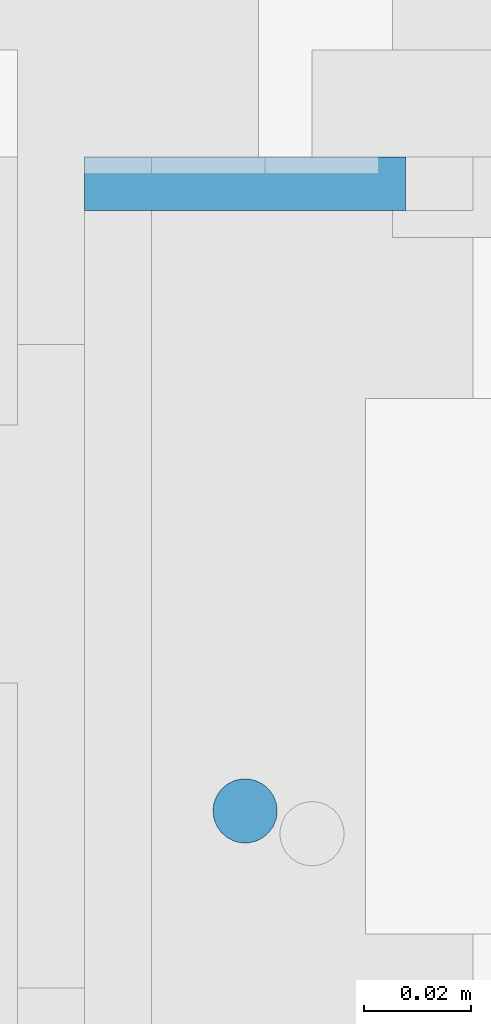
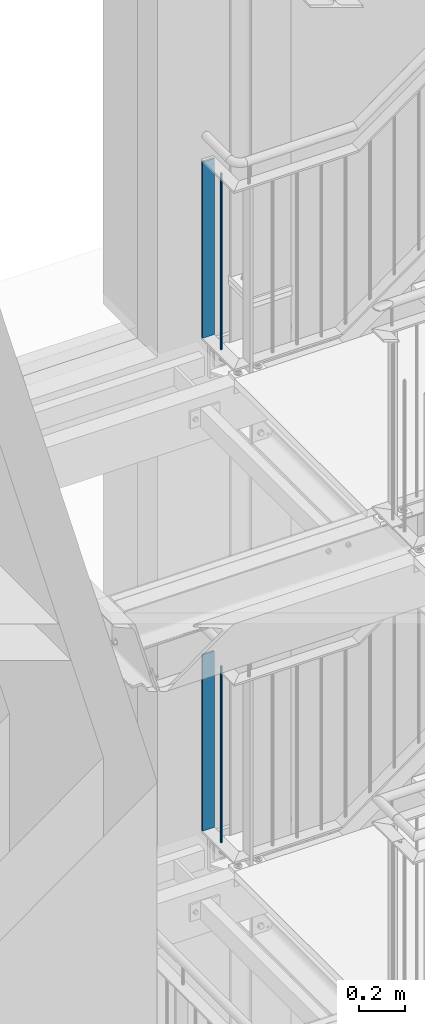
# One storey, part 65 of 821: 4 columns.
"""IFC2X3 building model written with IfcOpenShell, lengths in millimetres."""

from ifc_helpers import new_model, entity, si_unit, converted_unit, frame, origin, origin_with_axes, origin_2d, place, context, project, spatial, rectangle, circle, extrude, clip, halfspace, material, element, save


model = new_model("IFC2X3")

# Units and contexts
model_context = context("Model", 3, precision=1e-09, world=origin_with_axes())
ifc_project = project(units=[si_unit("LENGTHUNIT", "METRE", prefix="MILLI"), si_unit("AREAUNIT", "SQUARE_METRE"), si_unit("VOLUMEUNIT", "CUBIC_METRE"), converted_unit("PLANEANGLEUNIT", "DEGREE", entity("IfcPlaneAngleMeasure", 0.01745329), si_unit("PLANEANGLEUNIT", "RADIAN"), dimensions=[0, 0, 0, 0, 0, 0, 0])], contexts=[model_context])

# Site, building, storey
site_placement = place(None, origin_with_axes())
site = spatial("IfcSite", under=ifc_project, at=site_placement, Name="Cnopf'sche Kinderklinik", CompositionType="ELEMENT")
building_placement = place(site_placement, origin_with_axes())
building = spatial("IfcBuilding", under=site, at=building_placement, Name="Struktur 1", CompositionType="ELEMENT")
storey_placement = place(building_placement, origin_with_axes())
storey = spatial("IfcBuildingStorey", under=building, at=storey_placement, Name="Default Storey", CompositionType="ELEMENT", Elevation=0.0)

# Columns
ifc_material = material(Name="S235JR")
column_1_placement = place(None, frame((4644.213402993, 7606.736971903, 12649.0), z_axis=(0.0, 0.0, -1.0), x_axis=(0.0, -1.0, 0.0)))
element("IfcColumn", 1, at=column_1_placement, inside=storey, material=ifc_material, Name="Railing_Kneerail_Landing#0", ObjectType="Railing_Kneerail_Landing#0", context=model_context, shape_type="SweptSolid", body=[
    extrude(rectangle(XDim=10.0, YDim=60.0, at=origin_2d()), origin(), (0.0, 0.0, -1.0), 938.8),
])
column_2_placement = place(None, frame((4644.213402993, 7489.736971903, 13601.285281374), z_axis=(0.0, 0.0, 1.0), x_axis=(1.0, 0.0, 0.0)))
element("IfcColumn", 2, at=column_2_placement, inside=storey, material=ifc_material, Name="Railing_Picket_Landing#0", ObjectType="Railing_Picket_Landing#0", context=model_context, shape_type="Clipping", body=[
    clip(clip(extrude(circle(Radius=6.0, at=origin_2d()), origin(), (0.0, 0.0, -1.0), 965.770562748), halfspace(frame((-4644.213402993, -7489.736971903, -13.486281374), z_axis=(0.0, 0.0, -1.0), x_axis=(-1.0, 0.0, 0.0)), True)), halfspace(frame((-4644.213402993, -7489.736971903, -952.284281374), z_axis=(0.0, 0.0, 1.0), x_axis=(1.0, 0.0, 0.0)), True)),
])
column_3_placement = place(None, frame((4644.213402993, 7606.736971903, 10022.0), z_axis=(0.0, 0.0, -1.0), x_axis=(0.0, -1.0, 0.0)))
element("IfcColumn", 3, at=column_3_placement, inside=storey, material=ifc_material, Name="Railing_Kneerail_Landing#0", ObjectType="Railing_Kneerail_Landing#0", context=model_context, shape_type="SweptSolid", body=[
    extrude(rectangle(XDim=10.0, YDim=60.0, at=origin_2d()), origin(), (0.0, 0.0, -1.0), 938.8),
])
column_4_placement = place(None, frame((4644.213402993, 7489.736971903, 10974.285281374), z_axis=(0.0, 0.0, 1.0), x_axis=(1.0, 0.0, 0.0)))
element("IfcColumn", 4, at=column_4_placement, inside=storey, material=ifc_material, Name="Railing_Picket_Landing#0", ObjectType="Railing_Picket_Landing#0", context=model_context, shape_type="Clipping", body=[
    clip(clip(extrude(circle(Radius=6.0, at=origin_2d()), origin(), (0.0, 0.0, -1.0), 965.770562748), halfspace(frame((-4644.213402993, -7489.736971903, -13.486281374), z_axis=(0.0, 0.0, -1.0), x_axis=(-1.0, 0.0, 0.0)), True)), halfspace(frame((-4644.213402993, -7489.736971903, -952.284281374), z_axis=(0.0, 0.0, 1.0), x_axis=(1.0, 0.0, 0.0)), True)),
])

save(model, "model.ifc")
